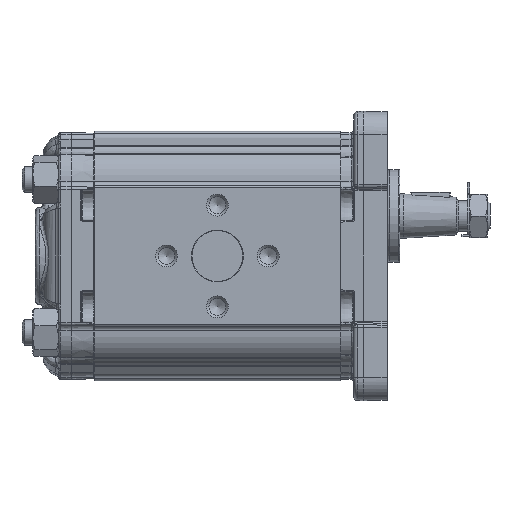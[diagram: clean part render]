
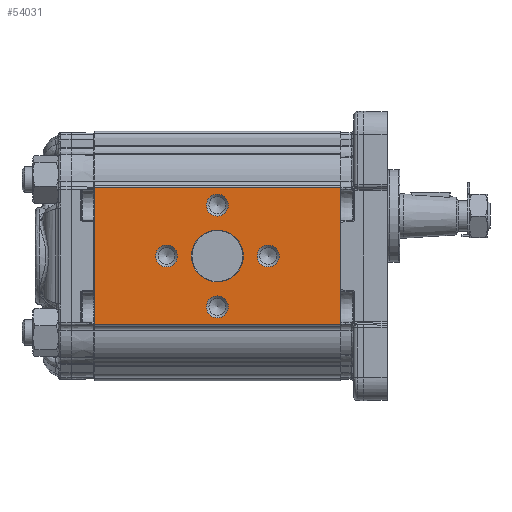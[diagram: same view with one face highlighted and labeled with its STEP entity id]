
A CAD part, left-side view. The second image highlights one B-rep face of the part: STEP entity #54031.
In plain terms, the highlighted planar face has unit normal (-1, 0, 0) as drawn and (1, 0, 0) by its records, which use the part's own axes.
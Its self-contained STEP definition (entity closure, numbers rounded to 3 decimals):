
#3595=PLANE('',#57280);
#4850=CIRCLE('',#57281,10.2);
#4851=CIRCLE('',#57282,4.324);
#4852=CIRCLE('',#57283,4.324);
#4853=CIRCLE('',#57284,4.324);
#4854=CIRCLE('',#57285,4.324);
#9661=ORIENTED_EDGE('',*,*,#18920,.T.);
#9662=ORIENTED_EDGE('',*,*,#18921,.T.);
#9663=ORIENTED_EDGE('',*,*,#18922,.T.);
#9664=ORIENTED_EDGE('',*,*,#18923,.T.);
#9665=ORIENTED_EDGE('',*,*,#18924,.T.);
#9666=ORIENTED_EDGE('',*,*,#18899,.F.);
#9667=ORIENTED_EDGE('',*,*,#18925,.F.);
#9668=ORIENTED_EDGE('',*,*,#18829,.T.);
#9669=ORIENTED_EDGE('',*,*,#18926,.T.);
#18829=EDGE_CURVE('',#23754,#23753,#26636,.T.);
#18899=EDGE_CURVE('',#23821,#23822,#26648,.T.);
#18920=EDGE_CURVE('',#23826,#23826,#4850,.F.);
#18921=EDGE_CURVE('',#23827,#23827,#4851,.F.);
#18922=EDGE_CURVE('',#23828,#23828,#4852,.F.);
#18923=EDGE_CURVE('',#23829,#23829,#4853,.F.);
#18924=EDGE_CURVE('',#23830,#23830,#4854,.F.);
#18925=EDGE_CURVE('',#23754,#23821,#26665,.T.);
#18926=EDGE_CURVE('',#23753,#23822,#26666,.T.);
#23753=VERTEX_POINT('',#77492);
#23754=VERTEX_POINT('',#77494);
#23821=VERTEX_POINT('',#77631);
#23822=VERTEX_POINT('',#77633);
#23826=VERTEX_POINT('',#77667);
#23827=VERTEX_POINT('',#77669);
#23828=VERTEX_POINT('',#77671);
#23829=VERTEX_POINT('',#77673);
#23830=VERTEX_POINT('',#77675);
#26636=LINE('',#77493,#28489);
#26648=LINE('',#77632,#28501);
#26665=LINE('',#77676,#28518);
#26666=LINE('',#77677,#28519);
#28489=VECTOR('',#63073,1000.);
#28501=VECTOR('',#63203,1000.);
#28518=VECTOR('',#63256,1000.);
#28519=VECTOR('',#63257,1000.);
#30842=EDGE_LOOP('',(#9661));
#30843=EDGE_LOOP('',(#9662));
#30844=EDGE_LOOP('',(#9663));
#30845=EDGE_LOOP('',(#9664));
#30846=EDGE_LOOP('',(#9665));
#30847=EDGE_LOOP('',(#9666,#9667,#9668,#9669));
#33667=FACE_BOUND('',#30842,.T.);
#33668=FACE_BOUND('',#30843,.T.);
#33669=FACE_BOUND('',#30844,.T.);
#33670=FACE_BOUND('',#30845,.T.);
#33671=FACE_BOUND('',#30846,.T.);
#33672=FACE_BOUND('',#30847,.T.);
#54031=ADVANCED_FACE('',(#33667,#33668,#33669,#33670,#33671,#33672),#3595,
 .T.);
#57280=AXIS2_PLACEMENT_3D('',#77665,#63244,#63245);
#57281=AXIS2_PLACEMENT_3D('',#77666,#63246,#63247);
#57282=AXIS2_PLACEMENT_3D('',#77668,#63248,#63249);
#57283=AXIS2_PLACEMENT_3D('',#77670,#63250,#63251);
#57284=AXIS2_PLACEMENT_3D('',#77672,#63252,#63253);
#57285=AXIS2_PLACEMENT_3D('',#77674,#63254,#63255);
#63073=DIRECTION('',(0.,0.,1.));
#63203=DIRECTION('',(0.,0.,1.));
#63244=DIRECTION('',(1.,0.,0.));
#63245=DIRECTION('',(0.,0.,-1.));
#63246=DIRECTION('',(1.,0.,0.));
#63247=DIRECTION('',(0.,0.,-1.));
#63248=DIRECTION('',(1.,0.,0.));
#63249=DIRECTION('',(0.,0.,-1.));
#63250=DIRECTION('',(1.,0.,0.));
#63251=DIRECTION('',(0.,0.,-1.));
#63252=DIRECTION('',(1.,0.,0.));
#63253=DIRECTION('',(0.,0.,-1.));
#63254=DIRECTION('',(1.,0.,0.));
#63255=DIRECTION('',(0.,0.,-1.));
#63256=DIRECTION('',(0.,-1.,0.));
#63257=DIRECTION('',(0.,-1.,0.));
#77492=CARTESIAN_POINT('',(43.,97.,27.048));
#77493=CARTESIAN_POINT('',(43.,97.,27.048));
#77494=CARTESIAN_POINT('',(43.,97.,-27.048));
#77631=CARTESIAN_POINT('',(43.,0.,-27.048));
#77632=CARTESIAN_POINT('',(43.,0.,27.048));
#77633=CARTESIAN_POINT('',(43.,0.,27.048));
#77665=CARTESIAN_POINT('',(43.,97.,27.048));
#77666=CARTESIAN_POINT('',(43.,48.5,0.));
#77667=CARTESIAN_POINT('',(43.,48.5,-10.2));
#77668=CARTESIAN_POINT('',(43.,48.5,-20.));
#77669=CARTESIAN_POINT('',(43.,48.5,-24.324));
#77670=CARTESIAN_POINT('',(43.,68.5,0.));
#77671=CARTESIAN_POINT('',(43.,68.5,-4.324));
#77672=CARTESIAN_POINT('',(43.,48.5,20.));
#77673=CARTESIAN_POINT('',(43.,48.5,15.677));
#77674=CARTESIAN_POINT('',(43.,28.5,0.));
#77675=CARTESIAN_POINT('',(43.,28.5,-4.323));
#77676=CARTESIAN_POINT('',(43.,97.,-27.048));
#77677=CARTESIAN_POINT('',(43.,97.,27.048));
